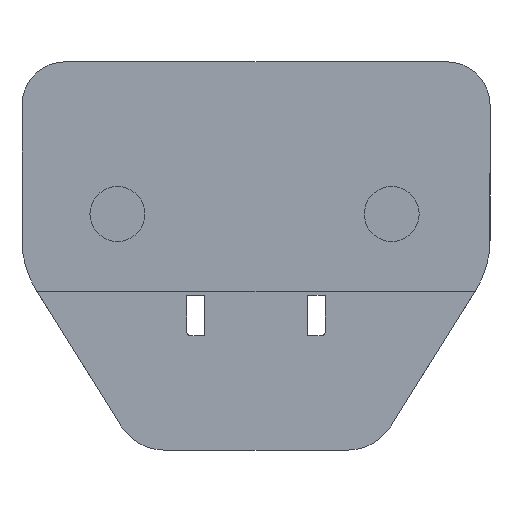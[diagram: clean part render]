
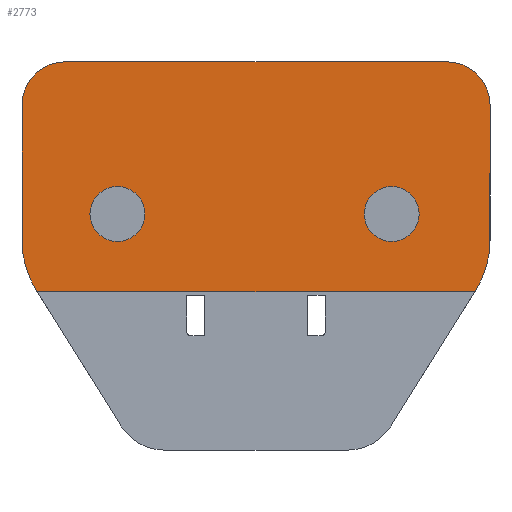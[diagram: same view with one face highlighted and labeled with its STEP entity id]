
A CAD part, front view. The second image highlights one B-rep face of the part: STEP entity #2773.
In plain terms, the highlighted planar face has unit normal (0, -1, 0).
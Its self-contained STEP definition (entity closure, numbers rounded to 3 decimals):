
#16 = EDGE_CURVE ( 'NONE', #642, #2684, #2787, .T. ) ;
#62 = DIRECTION ( 'NONE',  ( 1., 0., 0. ) ) ;
#104 = DIRECTION ( 'NONE',  ( 0., -1., 0. ) ) ;
#126 = VERTEX_POINT ( 'NONE', #759 ) ;
#147 = DIRECTION ( 'NONE',  ( 1., 0., 0. ) ) ;
#153 = DIRECTION ( 'NONE',  ( 0., -1., 0. ) ) ;
#223 = EDGE_CURVE ( 'NONE', #2554, #3454, #1275, .T. ) ;
#231 = EDGE_CURVE ( 'NONE', #2684, #3452, #400, .T. ) ;
#239 = CIRCLE ( 'NONE', #923, 5. ) ;
#258 = AXIS2_PLACEMENT_3D ( 'NONE', #3471, #2912, #1158 ) ;
#346 = LINE ( 'NONE', #1712, #1033 ) ;
#348 = CARTESIAN_POINT ( 'NONE',  ( -54.372, -12.743, -4.12 ) ) ;
#400 = LINE ( 'NONE', #3476, #3413 ) ;
#402 = EDGE_LOOP ( 'NONE', ( #3729, #3781 ) ) ;
#430 = CIRCLE ( 'NONE', #1254, 3.2 ) ;
#437 = VERTEX_POINT ( 'NONE', #1763 ) ;
#552 = CARTESIAN_POINT ( 'NONE',  ( -56.122, -12.743, 17.68 ) ) ;
#562 = DIRECTION ( 'NONE',  ( -0.53, 0., -0.848 ) ) ;
#642 = VERTEX_POINT ( 'NONE', #2118 ) ;
#643 = CARTESIAN_POINT ( 'NONE',  ( -12.988, -12.743, 4.93 ) ) ;
#652 = CARTESIAN_POINT ( 'NONE',  ( -1.522, -12.743, 17.68 ) ) ;
#665 = ORIENTED_EDGE ( 'NONE', *, *, #223, .F. ) ;
#741 = CARTESIAN_POINT ( 'NONE',  ( -44.988, -12.743, 1.73 ) ) ;
#759 = CARTESIAN_POINT ( 'NONE',  ( -56.122, -12.743, 1.834 ) ) ;
#802 = DIRECTION ( 'NONE',  ( 0., 1., 0. ) ) ;
#923 = AXIS2_PLACEMENT_3D ( 'NONE', #2559, #802, #2855 ) ;
#939 = CIRCLE ( 'NONE', #1654, 11. ) ;
#997 = CARTESIAN_POINT ( 'NONE',  ( -44.988, -12.743, 4.93 ) ) ;
#1008 = CARTESIAN_POINT ( 'NONE',  ( -54.45, -12.743, -3.995 ) ) ;
#1014 = EDGE_CURVE ( 'NONE', #1782, #3193, #430, .T. ) ;
#1030 = LINE ( 'NONE', #552, #3265 ) ;
#1033 = VECTOR ( 'NONE', #3574, 1000. ) ;
#1045 = DIRECTION ( 'NONE',  ( -0.53, 0., 0.848 ) ) ;
#1049 = ORIENTED_EDGE ( 'NONE', *, *, #1066, .F. ) ;
#1066 = EDGE_CURVE ( 'NONE', #437, #3191, #1134, .T. ) ;
#1077 = EDGE_CURVE ( 'NONE', #3454, #3504, #346, .T. ) ;
#1134 = CIRCLE ( 'NONE', #2812, 3.2 ) ;
#1153 = DIRECTION ( 'NONE',  ( 0., 1., 0. ) ) ;
#1158 = DIRECTION ( 'NONE',  ( 0., 0., -1. ) ) ;
#1173 = ORIENTED_EDGE ( 'NONE', *, *, #2181, .F. ) ;
#1225 = CIRCLE ( 'NONE', #3000, 11. ) ;
#1241 = ORIENTED_EDGE ( 'NONE', *, *, #1744, .T. ) ;
#1254 = AXIS2_PLACEMENT_3D ( 'NONE', #1304, #2668, #3130 ) ;
#1275 = CIRCLE ( 'NONE', #3132, 5. ) ;
#1293 = DIRECTION ( 'NONE',  ( 1., 0., 0. ) ) ;
#1304 = CARTESIAN_POINT ( 'NONE',  ( -44.988, -12.743, 4.93 ) ) ;
#1323 = ORIENTED_EDGE ( 'NONE', *, *, #1077, .F. ) ;
#1337 = FACE_BOUND ( 'NONE', #402, .T. ) ;
#1341 = LINE ( 'NONE', #1923, #2626 ) ;
#1376 = VERTEX_POINT ( 'NONE', #3282 ) ;
#1435 = DIRECTION ( 'NONE',  ( 0., -1., 0. ) ) ;
#1520 = CARTESIAN_POINT ( 'NONE',  ( -6.522, -12.743, 22.68 ) ) ;
#1549 = ORIENTED_EDGE ( 'NONE', *, *, #16, .F. ) ;
#1654 = AXIS2_PLACEMENT_3D ( 'NONE', #2254, #2838, #1969 ) ;
#1674 = ORIENTED_EDGE ( 'NONE', *, *, #231, .F. ) ;
#1712 = CARTESIAN_POINT ( 'NONE',  ( -1.522, -12.743, -4.12 ) ) ;
#1744 = EDGE_CURVE ( 'NONE', #642, #3504, #1225, .T. ) ;
#1763 = CARTESIAN_POINT ( 'NONE',  ( -12.988, -12.743, 1.73 ) ) ;
#1782 = VERTEX_POINT ( 'NONE', #741 ) ;
#1827 = VERTEX_POINT ( 'NONE', #1008 ) ;
#1850 = CARTESIAN_POINT ( 'NONE',  ( -1.522, -12.743, 1.834 ) ) ;
#1860 = CARTESIAN_POINT ( 'NONE',  ( -12.988, -12.743, 4.93 ) ) ;
#1903 = DIRECTION ( 'NONE',  ( 1., 0., 0. ) ) ;
#1909 = ORIENTED_EDGE ( 'NONE', *, *, #2224, .T. ) ;
#1914 = VECTOR ( 'NONE', #562, 1000. ) ;
#1923 = CARTESIAN_POINT ( 'NONE',  ( -50.226, -12.743, -10.754 ) ) ;
#1969 = DIRECTION ( 'NONE',  ( 1., 0., 0. ) ) ;
#2042 = CARTESIAN_POINT ( 'NONE',  ( -12.397, -12.743, -18.724 ) ) ;
#2118 = CARTESIAN_POINT ( 'NONE',  ( -3.193, -12.743, -3.995 ) ) ;
#2145 = CIRCLE ( 'NONE', #3251, 3.2 ) ;
#2155 = DIRECTION ( 'NONE',  ( 1., 0., 0. ) ) ;
#2179 = ORIENTED_EDGE ( 'NONE', *, *, #3162, .F. ) ;
#2181 = EDGE_CURVE ( 'NONE', #126, #3249, #1030, .T. ) ;
#2197 = CARTESIAN_POINT ( 'NONE',  ( -6.522, -12.743, 22.68 ) ) ;
#2202 = CARTESIAN_POINT ( 'NONE',  ( -12.522, -12.743, 1.834 ) ) ;
#2224 = EDGE_CURVE ( 'NONE', #126, #1827, #939, .T. ) ;
#2254 = CARTESIAN_POINT ( 'NONE',  ( -45.122, -12.743, 1.834 ) ) ;
#2302 = FACE_OUTER_BOUND ( 'NONE', #2460, .T. ) ;
#2344 = ORIENTED_EDGE ( 'NONE', *, *, #2397, .F. ) ;
#2397 = EDGE_CURVE ( 'NONE', #3452, #1827, #1341, .T. ) ;
#2460 = EDGE_LOOP ( 'NONE', ( #1549, #1241, #1323, #665, #2179, #3447, #1173, #1909, #2344, #1674 ) ) ;
#2503 = VECTOR ( 'NONE', #147, 1000. ) ;
#2554 = VERTEX_POINT ( 'NONE', #1520 ) ;
#2559 = CARTESIAN_POINT ( 'NONE',  ( -51.122, -12.743, 17.68 ) ) ;
#2607 = DIRECTION ( 'NONE',  ( -1., 0., 0. ) ) ;
#2618 = PLANE ( 'NONE',  #258 ) ;
#2626 = VECTOR ( 'NONE', #1045, 1000. ) ;
#2667 = CIRCLE ( 'NONE', #3575, 3.2 ) ;
#2668 = DIRECTION ( 'NONE',  ( 0., -1., 0. ) ) ;
#2684 = VERTEX_POINT ( 'NONE', #3129 ) ;
#2703 = EDGE_CURVE ( 'NONE', #3249, #1376, #239, .T. ) ;
#2773 = ADVANCED_FACE ( 'NONE', ( #2302, #2902, #1337 ), #2618, .T. ) ;
#2787 = LINE ( 'NONE', #2042, #1914 ) ;
#2812 = AXIS2_PLACEMENT_3D ( 'NONE', #643, #1435, #62 ) ;
#2838 = DIRECTION ( 'NONE',  ( 0., -1., 0. ) ) ;
#2855 = DIRECTION ( 'NONE',  ( 1., 0., 0. ) ) ;
#2902 = FACE_BOUND ( 'NONE', #3007, .T. ) ;
#2907 = DIRECTION ( 'NONE',  ( 1., 0., 0. ) ) ;
#2912 = DIRECTION ( 'NONE',  ( 0., -1., 0. ) ) ;
#3000 = AXIS2_PLACEMENT_3D ( 'NONE', #2202, #153, #1903 ) ;
#3007 = EDGE_LOOP ( 'NONE', ( #1049, #3735 ) ) ;
#3038 = DIRECTION ( 'NONE',  ( 0., -1., 0. ) ) ;
#3079 = CARTESIAN_POINT ( 'NONE',  ( -44.988, -12.743, 8.13 ) ) ;
#3083 = EDGE_CURVE ( 'NONE', #3193, #1782, #2667, .T. ) ;
#3129 = CARTESIAN_POINT ( 'NONE',  ( -3.271, -12.743, -4.12 ) ) ;
#3130 = DIRECTION ( 'NONE',  ( 1., 0., 0. ) ) ;
#3132 = AXIS2_PLACEMENT_3D ( 'NONE', #3187, #1153, #2907 ) ;
#3162 = EDGE_CURVE ( 'NONE', #1376, #2554, #3275, .T. ) ;
#3187 = CARTESIAN_POINT ( 'NONE',  ( -6.522, -12.743, 17.68 ) ) ;
#3191 = VERTEX_POINT ( 'NONE', #3372 ) ;
#3193 = VERTEX_POINT ( 'NONE', #3079 ) ;
#3249 = VERTEX_POINT ( 'NONE', #3693 ) ;
#3251 = AXIS2_PLACEMENT_3D ( 'NONE', #1860, #104, #2155 ) ;
#3265 = VECTOR ( 'NONE', #3751, 1000. ) ;
#3275 = LINE ( 'NONE', #2197, #2503 ) ;
#3282 = CARTESIAN_POINT ( 'NONE',  ( -51.122, -12.743, 22.68 ) ) ;
#3372 = CARTESIAN_POINT ( 'NONE',  ( -12.988, -12.743, 8.13 ) ) ;
#3413 = VECTOR ( 'NONE', #2607, 1000. ) ;
#3447 = ORIENTED_EDGE ( 'NONE', *, *, #2703, .F. ) ;
#3452 = VERTEX_POINT ( 'NONE', #348 ) ;
#3454 = VERTEX_POINT ( 'NONE', #652 ) ;
#3471 = CARTESIAN_POINT ( 'NONE',  ( -37.688, -12.743, -2.92 ) ) ;
#3476 = CARTESIAN_POINT ( 'NONE',  ( -56.122, -12.743, -4.12 ) ) ;
#3504 = VERTEX_POINT ( 'NONE', #1850 ) ;
#3540 = EDGE_CURVE ( 'NONE', #3191, #437, #2145, .T. ) ;
#3574 = DIRECTION ( 'NONE',  ( 0., 0., -1. ) ) ;
#3575 = AXIS2_PLACEMENT_3D ( 'NONE', #997, #3038, #1293 ) ;
#3693 = CARTESIAN_POINT ( 'NONE',  ( -56.122, -12.743, 17.68 ) ) ;
#3729 = ORIENTED_EDGE ( 'NONE', *, *, #1014, .F. ) ;
#3735 = ORIENTED_EDGE ( 'NONE', *, *, #3540, .F. ) ;
#3751 = DIRECTION ( 'NONE',  ( 0., 0., 1. ) ) ;
#3781 = ORIENTED_EDGE ( 'NONE', *, *, #3083, .F. ) ;
